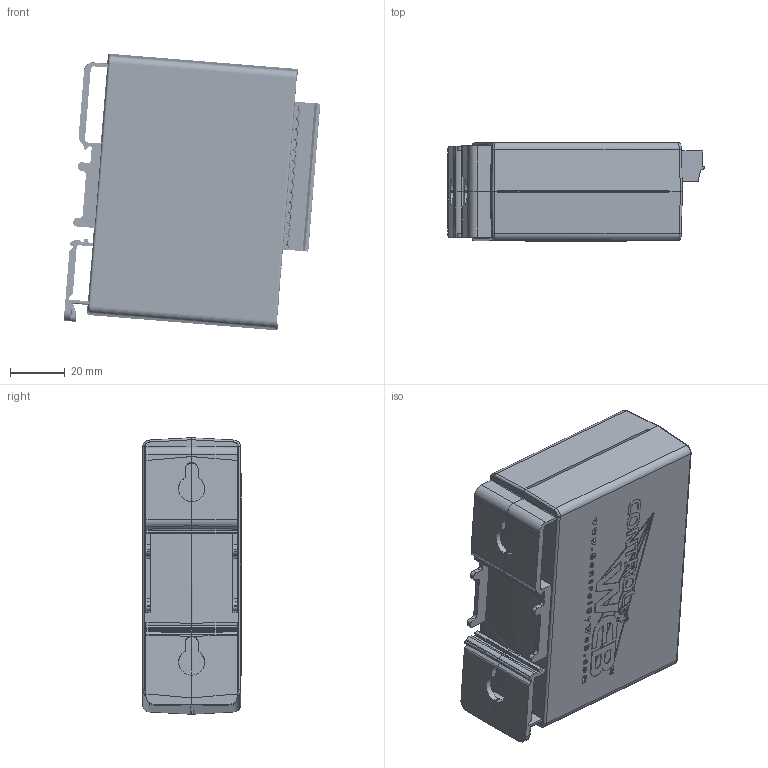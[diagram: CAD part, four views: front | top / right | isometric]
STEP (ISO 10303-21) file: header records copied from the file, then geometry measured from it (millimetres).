
FILE_DESCRIPTION((''),'2;1');
FILE_NAME('\\CBWSRV2\product-design\X-410_4-Input_4-Relay\Mechanical\X-410_3D.stp','2017-09-25T16:02:46',('David Olsen'),(''),'Autodesk Inventor 2013','Autodesk Inventor 2013','');
FILE_SCHEMA(('AUTOMOTIVE_DESIGN { 1 0 10303 214 1 1 1 1 }'));
Length unit declared in the file: inch
Products named in the file (2): Assembly_X-410_Complete.iam (SubstituteLevelofDetail1); Assembly_X-410_Complete_Substitute
Assembly tree (1 placements, depth 2):
  Assembly_X-410_Complete.iam (SubstituteLevelofDetail1)
    Assembly_X-410_Complete_Substitute
Bounding box: 93.63 x 35.97 x 100.91 mm (x, y, z)
Surface area: 125860.4 mm2 (no closed solid volume)
Topology: 0 solids, 35 shells, 6854 faces, 18356 edges, 11944 vertices
Faces by surface type: plane 5240, cylinder 1144, bspline 177, cone 120, sphere 90, torus 83
Full cylindrical faces by diameter (mm): 0.254 x13, 0.432 x8, 0.457 x2, 0.711 x18, 0.787 x8, 0.94 x20, 1.016 x4, 1.143 x14, 1.2 x14, 1.25 x14, 1.524 x18, 1.588 x9, 1.6 x26, 1.93 x3, 1.981 x1, 2.362 x2, 2.8 x14, 2.9 x14, 3 x9, 3.175 x13, 3.251 x2, 3.404 x9, 3.969 x4, 4.191 x4, 4.242 x2, 4.47 x1
Entity records: 229576 total; most frequent: CARTESIAN_POINT 52728, ORIENTED_EDGE 35848, DIRECTION 33622, EDGE_CURVE 17924, VECTOR 14500, LINE 14500, VERTEX_POINT 11859, AXIS2_PLACEMENT_3D 9561
